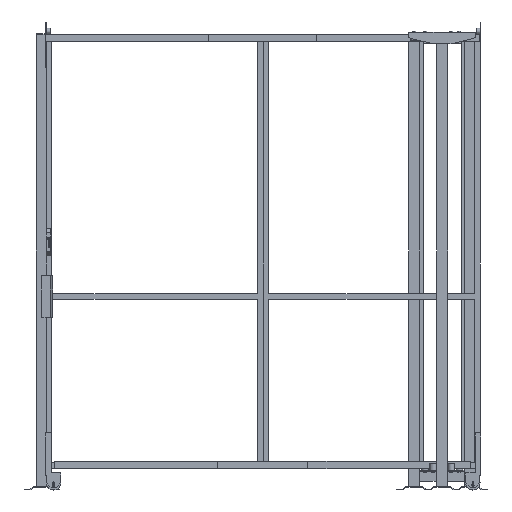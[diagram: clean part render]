
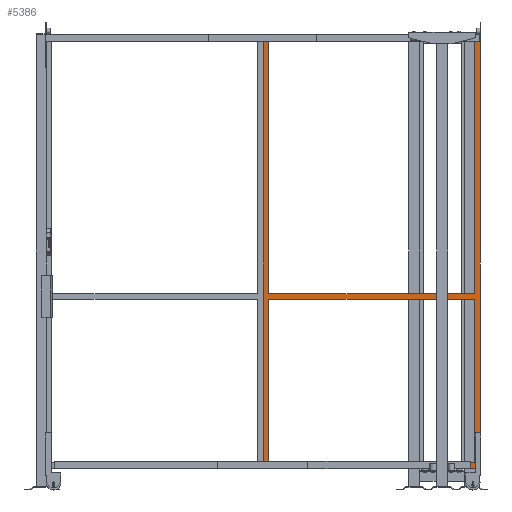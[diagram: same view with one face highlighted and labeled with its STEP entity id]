
A CAD part, front view. The second image highlights one B-rep face of the part: STEP entity #5386.
In plain terms, the highlighted planar face has unit normal (0, -1, 0).
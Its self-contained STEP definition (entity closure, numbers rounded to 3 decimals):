
#434=FACE_BOUND('',#875,.T.);
#435=FACE_BOUND('',#876,.T.);
#477=FACE_OUTER_BOUND('',#874,.T.);
#874=EDGE_LOOP('',(#3076,#3077,#3078,#3079));
#875=EDGE_LOOP('',(#3080,#3081,#3082,#3083));
#876=EDGE_LOOP('',(#3084,#3085,#3086,#3087));
#1308=VERTEX_POINT('',#10858);
#1310=VERTEX_POINT('',#10861);
#1313=VERTEX_POINT('',#10868);
#1315=VERTEX_POINT('',#10872);
#1316=VERTEX_POINT('',#10876);
#1318=VERTEX_POINT('',#10882);
#1319=VERTEX_POINT('',#10883);
#1320=VERTEX_POINT('',#10885);
#1321=VERTEX_POINT('',#10887);
#1322=VERTEX_POINT('',#10890);
#1323=VERTEX_POINT('',#10892);
#1324=VERTEX_POINT('',#10895);
#2035=EDGE_CURVE('',#1308,#1310,#6183,.T.);
#2041=EDGE_CURVE('',#1315,#1313,#6189,.T.);
#2042=EDGE_CURVE('',#1316,#1313,#6190,.T.);
#2045=EDGE_CURVE('',#1318,#1319,#6193,.T.);
#2046=EDGE_CURVE('',#1320,#1319,#6194,.T.);
#2047=EDGE_CURVE('',#1321,#1320,#6195,.T.);
#2048=EDGE_CURVE('',#1318,#1321,#6196,.T.);
#2049=EDGE_CURVE('',#1308,#1322,#6197,.T.);
#2050=EDGE_CURVE('',#1322,#1323,#6198,.T.);
#2051=EDGE_CURVE('',#1323,#1310,#6199,.T.);
#2052=EDGE_CURVE('',#1315,#1324,#6200,.T.);
#2053=EDGE_CURVE('',#1324,#1316,#6201,.T.);
#3076=ORIENTED_EDGE('',*,*,#2045,.T.);
#3077=ORIENTED_EDGE('',*,*,#2046,.F.);
#3078=ORIENTED_EDGE('',*,*,#2047,.F.);
#3079=ORIENTED_EDGE('',*,*,#2048,.F.);
#3080=ORIENTED_EDGE('',*,*,#2049,.T.);
#3081=ORIENTED_EDGE('',*,*,#2050,.T.);
#3082=ORIENTED_EDGE('',*,*,#2051,.T.);
#3083=ORIENTED_EDGE('',*,*,#2035,.F.);
#3084=ORIENTED_EDGE('',*,*,#2041,.F.);
#3085=ORIENTED_EDGE('',*,*,#2052,.T.);
#3086=ORIENTED_EDGE('',*,*,#2053,.T.);
#3087=ORIENTED_EDGE('',*,*,#2042,.T.);
#5029=PLANE('',#8196);
#5386=ADVANCED_FACE('',(#477,#434,#435),#5029,.F.);
#6183=LINE('',#10862,#7188);
#6189=LINE('',#10874,#7194);
#6190=LINE('',#10877,#7195);
#6193=LINE('',#10884,#7198);
#6194=LINE('',#10886,#7199);
#6195=LINE('',#10888,#7200);
#6196=LINE('',#10889,#7201);
#6197=LINE('',#10891,#7202);
#6198=LINE('',#10893,#7203);
#6199=LINE('',#10894,#7204);
#6200=LINE('',#10896,#7205);
#6201=LINE('',#10897,#7206);
#7188=VECTOR('',#8751,1.);
#7194=VECTOR('',#8759,1.);
#7195=VECTOR('',#8762,1.);
#7198=VECTOR('',#8767,1.);
#7199=VECTOR('',#8768,1.);
#7200=VECTOR('',#8769,1.);
#7201=VECTOR('',#8770,1.);
#7202=VECTOR('',#8771,1.);
#7203=VECTOR('',#8772,1.);
#7204=VECTOR('',#8773,1.);
#7205=VECTOR('',#8774,1.);
#7206=VECTOR('',#8775,1.);
#8196=AXIS2_PLACEMENT_3D('',#10881,#8765,#8766);
#8751=DIRECTION('',(1.,0.,0.));
#8759=DIRECTION('',(-1.,0.,0.));
#8762=DIRECTION('',(0.,0.,1.));
#8765=DIRECTION('center_axis',(0.,1.,0.));
#8766=DIRECTION('ref_axis',(0.,0.,1.));
#8767=DIRECTION('',(0.,0.,-1.));
#8768=DIRECTION('',(-1.,0.,0.));
#8769=DIRECTION('',(0.,0.,-1.));
#8770=DIRECTION('',(1.,0.,0.));
#8771=DIRECTION('',(0.,0.,1.));
#8772=DIRECTION('',(1.,0.,0.));
#8773=DIRECTION('',(0.,0.,-1.));
#8774=DIRECTION('',(0.,0.,-1.));
#8775=DIRECTION('',(-1.,0.,0.));
#10858=CARTESIAN_POINT('',(30.,0.,965.));
#10861=CARTESIAN_POINT('',(1170.,0.,965.));
#10862=CARTESIAN_POINT('',(600.,0.,965.));
#10868=CARTESIAN_POINT('',(30.,0.,935.));
#10872=CARTESIAN_POINT('',(1170.,0.,935.));
#10874=CARTESIAN_POINT('',(600.,0.,935.));
#10876=CARTESIAN_POINT('',(30.,0.,30.));
#10877=CARTESIAN_POINT('',(30.,0.,1200.));
#10881=CARTESIAN_POINT('Origin',(600.,0.,1200.));
#10882=CARTESIAN_POINT('',(0.,0.,2400.));
#10883=CARTESIAN_POINT('',(0.,0.,0.));
#10884=CARTESIAN_POINT('',(0.,0.,1200.));
#10885=CARTESIAN_POINT('',(1200.,0.,0.));
#10886=CARTESIAN_POINT('',(600.,0.,0.));
#10887=CARTESIAN_POINT('',(1200.,0.,2400.));
#10888=CARTESIAN_POINT('',(1200.,0.,1200.));
#10889=CARTESIAN_POINT('',(600.,0.,2400.));
#10890=CARTESIAN_POINT('',(30.,0.,2370.));
#10891=CARTESIAN_POINT('',(30.,0.,1200.));
#10892=CARTESIAN_POINT('',(1170.,0.,2370.));
#10893=CARTESIAN_POINT('',(600.,0.,2370.));
#10894=CARTESIAN_POINT('',(1170.,0.,1200.));
#10895=CARTESIAN_POINT('',(1170.,0.,30.));
#10896=CARTESIAN_POINT('',(1170.,0.,1200.));
#10897=CARTESIAN_POINT('',(600.,0.,30.));
